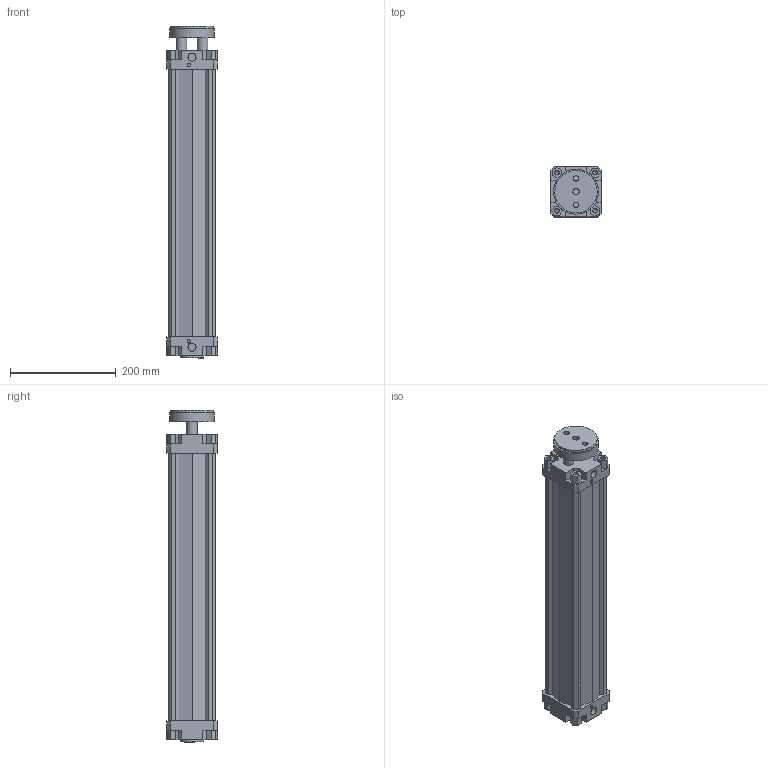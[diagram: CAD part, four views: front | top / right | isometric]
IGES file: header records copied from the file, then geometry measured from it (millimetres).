
Global section: file name: 132#_080_0450_01; native system: Autodesk Inventor 2014; preprocessor: unknown; author: A. Manieri; date: 20161006.162512; units: millimetre
Bounding box: 95 x 95 x 628 mm (x, y, z)
Volume: 2218405.4 mm3; surface area: 492899.9 mm2
Topology: 2 solids, 2 shells, 180 faces, 491 edges, 335 vertices
Faces by surface type: bspline 180
